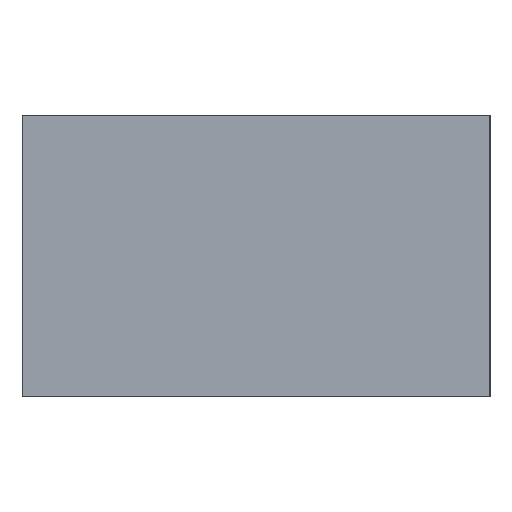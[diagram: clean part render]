
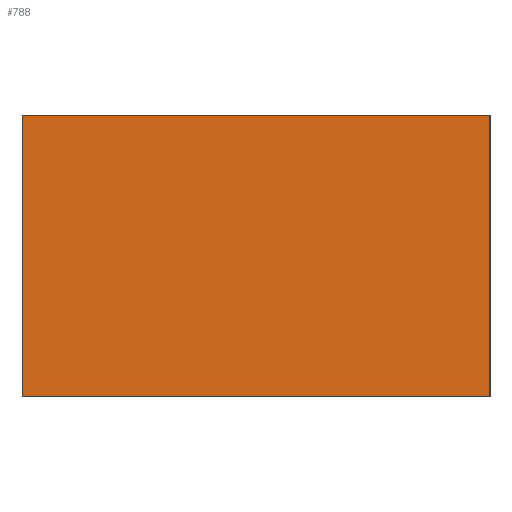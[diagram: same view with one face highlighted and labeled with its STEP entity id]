
A CAD part, left-side view. The second image highlights one B-rep face of the part: STEP entity #788.
In plain terms, the highlighted planar face has unit normal (-1, 0, 0).
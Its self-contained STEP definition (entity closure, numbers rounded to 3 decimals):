
#761=AXIS2_PLACEMENT_3D('Plane Axis2P3D',#758,#759,#760) ;
#682=CARTESIAN_POINT('Vertex',(-110.,-15.15,9.)) ;
#698=CARTESIAN_POINT('Vertex',(-110.,14.75,9.)) ;
#701=CARTESIAN_POINT('Line Origine',(-110.,-0.2,9.)) ;
#758=CARTESIAN_POINT('Axis2P3D Location',(-110.,14.75,9.)) ;
#763=CARTESIAN_POINT('Line Origine',(-110.,14.75,0.)) ;
#767=CARTESIAN_POINT('Vertex',(-110.,14.75,-9.)) ;
#770=CARTESIAN_POINT('Line Origine',(-110.,-0.2,-9.)) ;
#774=CARTESIAN_POINT('Vertex',(-110.,-15.15,-9.)) ;
#777=CARTESIAN_POINT('Line Origine',(-110.,-15.15,0.)) ;
#702=DIRECTION('Vector Direction',(0.,-1.,0.)) ;
#759=DIRECTION('Axis2P3D Direction',(1.,0.,-0.)) ;
#760=DIRECTION('Axis2P3D XDirection',(0.,1.,0.)) ;
#764=DIRECTION('Vector Direction',(0.,0.,-1.)) ;
#771=DIRECTION('Vector Direction',(0.,-1.,0.)) ;
#778=DIRECTION('Vector Direction',(0.,0.,-1.)) ;
#703=VECTOR('Line Direction',#702,1.) ;
#765=VECTOR('Line Direction',#764,1.) ;
#772=VECTOR('Line Direction',#771,1.) ;
#779=VECTOR('Line Direction',#778,1.) ;
#783=ORIENTED_EDGE('',*,*,#705,.F.) ;
#784=ORIENTED_EDGE('',*,*,#769,.T.) ;
#785=ORIENTED_EDGE('',*,*,#776,.T.) ;
#786=ORIENTED_EDGE('',*,*,#781,.F.) ;
#788=ADVANCED_FACE('\X2\62535B545C3A5BF8\X0\(%\X2\6839636E\X0\)\X2\5185516D89D2570667F1593487BA948976847C7B578B\X0\1',(#787),#762,.F.) ;
#705=EDGE_CURVE('',#699,#683,#704,.T.) ;
#769=EDGE_CURVE('',#699,#768,#766,.T.) ;
#776=EDGE_CURVE('',#768,#775,#773,.T.) ;
#781=EDGE_CURVE('',#683,#775,#780,.T.) ;
#782=EDGE_LOOP('',(#783,#784,#785,#786)) ;
#787=FACE_OUTER_BOUND('',#782,.T.) ;
#704=LINE('Line',#701,#703) ;
#766=LINE('Line',#763,#765) ;
#773=LINE('Line',#770,#772) ;
#780=LINE('Line',#777,#779) ;
#762=PLANE('',#761) ;
#683=VERTEX_POINT('',#682) ;
#699=VERTEX_POINT('',#698) ;
#768=VERTEX_POINT('',#767) ;
#775=VERTEX_POINT('',#774) ;
